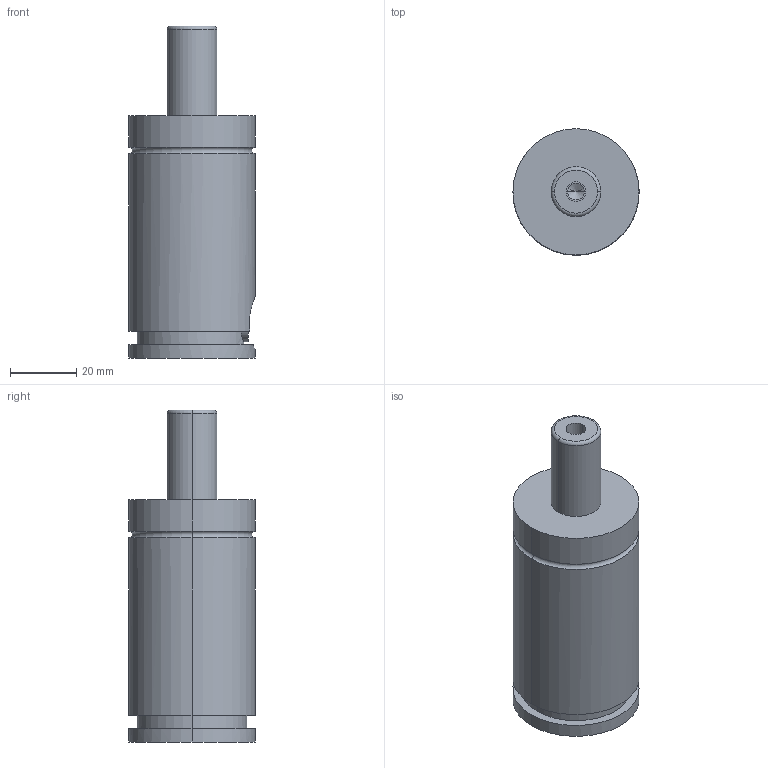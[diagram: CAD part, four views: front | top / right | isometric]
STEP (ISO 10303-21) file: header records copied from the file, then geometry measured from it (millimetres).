
FILE_DESCRIPTION(/* description */ (''),/* implementation_level */ '2;1');
FILE_NAME(/* name */ '3d_gse38-25_03868_r00.stp',/* time_stamp */ '2011-01-10T14:15:19+09:00',/* author */ ('MISUMI'),/* organization */ (''),/* preprocessor_version */ 'ST-DEVELOPER v11',/* originating_system */ 'UGS - NX 5.0',/* authorisation */ '');
FILE_SCHEMA (('CONFIG_CONTROL_DESIGN'));
Length unit declared in the file: millimetre
Products named in the file (1): 3d_gse38-25_03868_r00
Bounding box: 38 x 38 x 100 mm (x, y, z)
Volume: 84490.8 mm3; surface area: 13964.9 mm2
Topology: 1 solids, 1 shells, 57 faces, 125 edges, 79 vertices
Faces by surface type: cylinder 26, plane 21, cone 6, torus 4
Entity records: 1669 total; most frequent: DIRECTION 297, CARTESIAN_POINT 286, ORIENTED_EDGE 246, EDGE_CURVE 123, AXIS2_PLACEMENT_3D 122, VERTEX_POINT 79, EDGE_LOOP 68, CIRCLE 64
